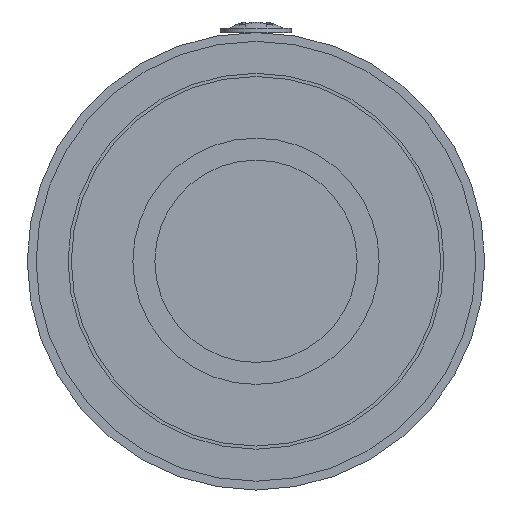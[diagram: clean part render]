
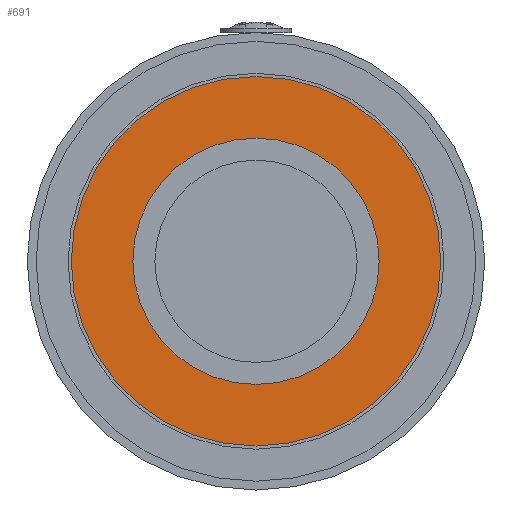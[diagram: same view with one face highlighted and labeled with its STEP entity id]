
A CAD part, front view. The second image highlights one B-rep face of the part: STEP entity #691.
In plain terms, the highlighted planar face has unit normal (0, -1, 0) as drawn and (0, 0, -1) by its records, which use the part's own axes.
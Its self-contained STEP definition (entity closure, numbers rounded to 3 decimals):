
#45=FACE_BOUND('',#241,.T.);
#52=PLANE('',#772);
#190=FACE_OUTER_BOUND('',#240,.T.);
#240=EDGE_LOOP('',(#516));
#241=EDGE_LOOP('',(#517));
#294=CIRCLE('',#763,21.);
#297=CIRCLE('',#767,14.);
#337=VERTEX_POINT('',#1103);
#340=VERTEX_POINT('',#1111);
#403=EDGE_CURVE('',#337,#337,#294,.T.);
#408=EDGE_CURVE('',#340,#340,#297,.T.);
#516=ORIENTED_EDGE('',*,*,#403,.F.);
#517=ORIENTED_EDGE('',*,*,#408,.T.);
#691=ADVANCED_FACE('',(#190,#45),#52,.T.);
#763=AXIS2_PLACEMENT_3D('',#1104,#876,#877);
#767=AXIS2_PLACEMENT_3D('',#1113,#886,#887);
#772=AXIS2_PLACEMENT_3D('',#1121,#897,#898);
#876=DIRECTION('center_axis',(0.,0.,1.));
#877=DIRECTION('ref_axis',(-1.,0.,0.));
#886=DIRECTION('center_axis',(0.,0.,1.));
#887=DIRECTION('ref_axis',(-1.,0.,0.));
#897=DIRECTION('center_axis',(0.,0.,-1.));
#898=DIRECTION('ref_axis',(-1.,0.,0.));
#1103=CARTESIAN_POINT('',(42.,119.959,-2.));
#1104=CARTESIAN_POINT('Origin',(21.,119.959,-2.));
#1111=CARTESIAN_POINT('',(35.,119.959,-2.));
#1113=CARTESIAN_POINT('Origin',(21.,119.959,-2.));
#1121=CARTESIAN_POINT('Origin',(21.,119.959,-2.));
